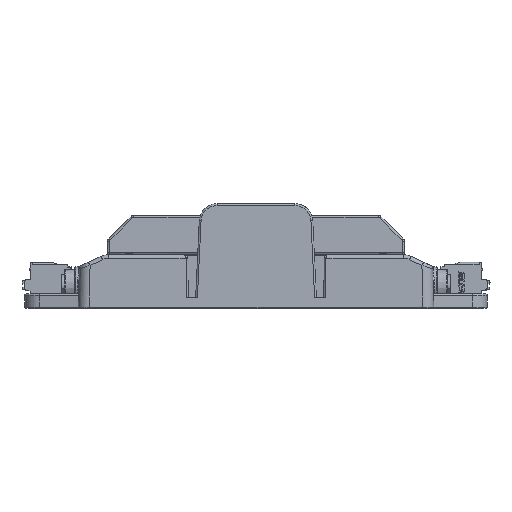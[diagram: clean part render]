
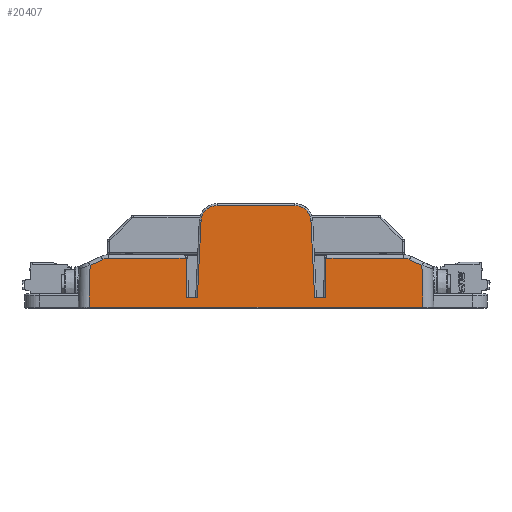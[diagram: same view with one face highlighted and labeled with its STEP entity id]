
A CAD part, front view. The second image highlights one B-rep face of the part: STEP entity #20407.
In plain terms, the highlighted planar face has unit normal (0, -1, 0.024).
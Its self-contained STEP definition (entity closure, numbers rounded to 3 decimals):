
#84=ELLIPSE('',#57963,0.5,0.5);
#94=ELLIPSE('',#58014,0.5,0.5);
#96=ELLIPSE('',#58019,4.001,4.);
#97=ELLIPSE('',#58020,4.001,4.);
#1489=B_SPLINE_CURVE_WITH_KNOTS('',3,(#88186,#88187,#88188,#88189,#88190,
#88191),.UNSPECIFIED.,.F.,.F.,(4,2,4),(0.,0.5,1.),.UNSPECIFIED.);
#1490=B_SPLINE_CURVE_WITH_KNOTS('',3,(#88216,#88217,#88218,#88219,#88220,
#88221),.UNSPECIFIED.,.F.,.F.,(4,2,4),(0.,0.5,1.),.UNSPECIFIED.);
#4784=LINE('',#88168,#9938);
#4789=LINE('',#88178,#9943);
#4790=LINE('',#88182,#9944);
#4791=LINE('',#88212,#9945);
#4792=LINE('',#88242,#9946);
#4795=LINE('',#88249,#9949);
#4797=LINE('',#88255,#9951);
#4916=LINE('',#89126,#10070);
#5026=LINE('',#89624,#10180);
#5027=LINE('',#89626,#10181);
#5028=LINE('',#89630,#10182);
#5029=LINE('',#89631,#10183);
#5030=LINE('',#89633,#10184);
#5031=LINE('',#89635,#10185);
#9938=VECTOR('',#67739,1.);
#9943=VECTOR('',#67748,1.);
#9944=VECTOR('',#67753,1.);
#9945=VECTOR('',#67760,1.);
#9946=VECTOR('',#67767,1.);
#9949=VECTOR('',#67774,1.);
#9951=VECTOR('',#67780,1.);
#10070=VECTOR('',#68283,1.);
#10180=VECTOR('',#68553,1.);
#10181=VECTOR('',#68554,1.);
#10182=VECTOR('',#68557,1.);
#10183=VECTOR('',#68558,1.);
#10184=VECTOR('',#68559,1.);
#10185=VECTOR('',#68560,1.);
#14650=FACE_OUTER_BOUND('',#24321,.T.);
#16705=PLANE('',#58021);
#20407=ADVANCED_FACE('',(#14650),#16705,.T.);
#24321=EDGE_LOOP('',(#35901,#35902,#35903,#35904,#35905,#35906,#35907,#35908,
#35909,#35910,#35911,#35912,#35913,#35914,#35915,#35916,#35917,#35918,#35919,
#35920));
#35901=ORIENTED_EDGE('',*,*,#51484,.T.);
#35902=ORIENTED_EDGE('',*,*,#51377,.T.);
#35903=ORIENTED_EDGE('',*,*,#51079,.T.);
#35904=ORIENTED_EDGE('',*,*,#51076,.F.);
#35905=ORIENTED_EDGE('',*,*,#51072,.T.);
#35906=ORIENTED_EDGE('',*,*,#51070,.T.);
#35907=ORIENTED_EDGE('',*,*,#51068,.T.);
#35908=ORIENTED_EDGE('',*,*,#51066,.T.);
#35909=ORIENTED_EDGE('',*,*,#51064,.T.);
#35910=ORIENTED_EDGE('',*,*,#51062,.F.);
#35911=ORIENTED_EDGE('',*,*,#51056,.F.);
#35912=ORIENTED_EDGE('',*,*,#51476,.T.);
#35913=ORIENTED_EDGE('',*,*,#51485,.T.);
#35914=ORIENTED_EDGE('',*,*,#51486,.T.);
#35915=ORIENTED_EDGE('',*,*,#51487,.T.);
#35916=ORIENTED_EDGE('',*,*,#51327,.T.);
#35917=ORIENTED_EDGE('',*,*,#51488,.T.);
#35918=ORIENTED_EDGE('',*,*,#51489,.T.);
#35919=ORIENTED_EDGE('',*,*,#51490,.T.);
#35920=ORIENTED_EDGE('',*,*,#51491,.T.);
#44264=VERTEX_POINT('',#88167);
#44265=VERTEX_POINT('',#88169);
#44268=VERTEX_POINT('',#88179);
#44269=VERTEX_POINT('',#88183);
#44270=VERTEX_POINT('',#88192);
#44271=VERTEX_POINT('',#88213);
#44272=VERTEX_POINT('',#88222);
#44273=VERTEX_POINT('',#88243);
#44275=VERTEX_POINT('',#88250);
#44277=VERTEX_POINT('',#88256);
#44422=VERTEX_POINT('',#89125);
#44423=VERTEX_POINT('',#89127);
#44451=VERTEX_POINT('',#89346);
#44516=VERTEX_POINT('',#89578);
#44521=VERTEX_POINT('',#89625);
#44522=VERTEX_POINT('',#89627);
#44523=VERTEX_POINT('',#89629);
#44524=VERTEX_POINT('',#89632);
#44525=VERTEX_POINT('',#89634);
#44526=VERTEX_POINT('',#89636);
#51056=EDGE_CURVE('',#44264,#44265,#4784,.T.);
#51062=EDGE_CURVE('',#44265,#44268,#4789,.T.);
#51064=EDGE_CURVE('',#44269,#44268,#4790,.T.);
#51066=EDGE_CURVE('',#44270,#44269,#1489,.T.);
#51068=EDGE_CURVE('',#44271,#44270,#4791,.T.);
#51070=EDGE_CURVE('',#44272,#44271,#1490,.T.);
#51072=EDGE_CURVE('',#44273,#44272,#4792,.T.);
#51076=EDGE_CURVE('',#44273,#44275,#4795,.T.);
#51079=EDGE_CURVE('',#44277,#44275,#4797,.T.);
#51327=EDGE_CURVE('',#44423,#44422,#4916,.T.);
#51377=EDGE_CURVE('',#44451,#44277,#84,.T.);
#51476=EDGE_CURVE('',#44264,#44516,#94,.T.);
#51484=EDGE_CURVE('',#44521,#44451,#5026,.T.);
#51485=EDGE_CURVE('',#44516,#44522,#5027,.T.);
#51486=EDGE_CURVE('',#44522,#44523,#96,.T.);
#51487=EDGE_CURVE('',#44523,#44423,#5028,.T.);
#51488=EDGE_CURVE('',#44422,#44524,#5029,.T.);
#51489=EDGE_CURVE('',#44524,#44525,#5030,.T.);
#51490=EDGE_CURVE('',#44525,#44526,#5031,.T.);
#51491=EDGE_CURVE('',#44526,#44521,#97,.T.);
#57963=AXIS2_PLACEMENT_3D('',#89377,#68358,#68359);
#58014=AXIS2_PLACEMENT_3D('',#89579,#68539,#68540);
#58019=AXIS2_PLACEMENT_3D('',#89628,#68555,#68556);
#58020=AXIS2_PLACEMENT_3D('',#89637,#68561,#68562);
#58021=AXIS2_PLACEMENT_3D('',#89638,#68563,#68564);
#67739=DIRECTION('',(0.009,-0.024,-1.));
#67748=DIRECTION('',(1.,0.,0.));
#67753=DIRECTION('',(-0.047,-0.024,-0.999));
#67760=DIRECTION('',(-1.,0.,0.));
#67767=DIRECTION('',(-0.047,0.024,0.999));
#67774=DIRECTION('',(1.,0.,0.));
#67780=DIRECTION('',(-0.009,-0.024,-1.));
#68283=DIRECTION('',(-0.026,-0.024,-0.999));
#68358=DIRECTION('',(0.,-1.,0.024));
#68359=DIRECTION('',(0.,-0.024,-1.));
#68539=DIRECTION('',(0.,-1.,0.024));
#68540=DIRECTION('',(0.,-0.024,-1.));
#68553=DIRECTION('',(-1.,0.,0.));
#68554=DIRECTION('',(-1.,0.,0.));
#68555=DIRECTION('',(0.,-1.,0.024));
#68556=DIRECTION('',(0.,-0.024,-1.));
#68557=DIRECTION('',(-0.906,-0.01,-0.423));
#68558=DIRECTION('',(1.,0.,0.));
#68559=DIRECTION('',(-0.026,0.024,0.999));
#68560=DIRECTION('',(-0.906,0.01,0.423));
#68561=DIRECTION('',(0.,-1.,0.024));
#68562=DIRECTION('',(0.,-0.024,-1.));
#68563=DIRECTION('',(0.,-1.,0.024));
#68564=DIRECTION('',(0.,-0.024,-1.));
#88167=CARTESIAN_POINT('',(-19.613,0.337,13.716));
#88168=CARTESIAN_POINT('',(-19.424,-0.185,-7.871));
#88169=CARTESIAN_POINT('',(-19.516,0.071,2.7));
#88178=CARTESIAN_POINT('',(49.,0.071,2.7));
#88179=CARTESIAN_POINT('',(-16.42,0.071,2.7));
#88182=CARTESIAN_POINT('',(-16.746,-0.095,-4.15));
#88183=CARTESIAN_POINT('',(-15.397,0.591,24.226));
#88186=CARTESIAN_POINT('',(-10.902,0.694,28.512));
#88187=CARTESIAN_POINT('',(-12.047,0.694,28.512));
#88188=CARTESIAN_POINT('',(-13.179,0.683,28.058));
#88189=CARTESIAN_POINT('',(-14.836,0.645,26.479));
#88190=CARTESIAN_POINT('',(-15.342,0.618,25.371));
#88191=CARTESIAN_POINT('',(-15.397,0.591,24.226));
#88192=CARTESIAN_POINT('',(-10.902,0.694,28.512));
#88212=CARTESIAN_POINT('',(49.,0.694,28.512));
#88213=CARTESIAN_POINT('',(10.902,0.694,28.512));
#88216=CARTESIAN_POINT('',(15.397,0.591,24.226));
#88217=CARTESIAN_POINT('',(15.343,0.618,25.37));
#88218=CARTESIAN_POINT('',(14.836,0.645,26.479));
#88219=CARTESIAN_POINT('',(13.179,0.683,28.059));
#88220=CARTESIAN_POINT('',(12.049,0.694,28.512));
#88221=CARTESIAN_POINT('',(10.902,0.694,28.512));
#88222=CARTESIAN_POINT('',(15.397,0.591,24.226));
#88242=CARTESIAN_POINT('',(16.967,-0.207,-8.796));
#88243=CARTESIAN_POINT('',(16.42,0.071,2.7));
#88249=CARTESIAN_POINT('',(49.,0.071,2.7));
#88250=CARTESIAN_POINT('',(19.516,0.071,2.7));
#88255=CARTESIAN_POINT('',(19.514,0.063,2.388));
#88256=CARTESIAN_POINT('',(19.613,0.337,13.716));
#89125=CARTESIAN_POINT('',(-46.81,0.005,0.));
#89126=CARTESIAN_POINT('',(-46.934,-0.11,-4.764));
#89127=CARTESIAN_POINT('',(-46.503,0.288,11.701));
#89346=CARTESIAN_POINT('',(19.613,0.337,13.724));
#89377=CARTESIAN_POINT('',(20.113,0.337,13.712));
#89578=CARTESIAN_POINT('',(-19.613,0.337,13.724));
#89579=CARTESIAN_POINT('',(-20.113,0.337,13.712));
#89624=CARTESIAN_POINT('',(-77.,0.337,13.724));
#89625=CARTESIAN_POINT('',(41.278,0.337,13.724));
#89626=CARTESIAN_POINT('',(-77.,0.337,13.724));
#89627=CARTESIAN_POINT('',(-41.278,0.337,13.724));
#89628=CARTESIAN_POINT('',(-41.278,0.24,9.724));
#89629=CARTESIAN_POINT('',(-42.968,0.328,13.349));
#89630=CARTESIAN_POINT('',(24.663,1.09,44.886));
#89631=CARTESIAN_POINT('',(49.,0.005,0.));
#89632=CARTESIAN_POINT('',(46.81,0.005,0.));
#89633=CARTESIAN_POINT('',(47.002,-0.172,-7.327));
#89634=CARTESIAN_POINT('',(46.503,0.288,11.701));
#89635=CARTESIAN_POINT('',(55.825,0.183,7.354));
#89636=CARTESIAN_POINT('',(42.968,0.328,13.349));
#89637=CARTESIAN_POINT('',(41.278,0.24,9.724));
#89638=CARTESIAN_POINT('',(49.,-0.17,-7.274));
